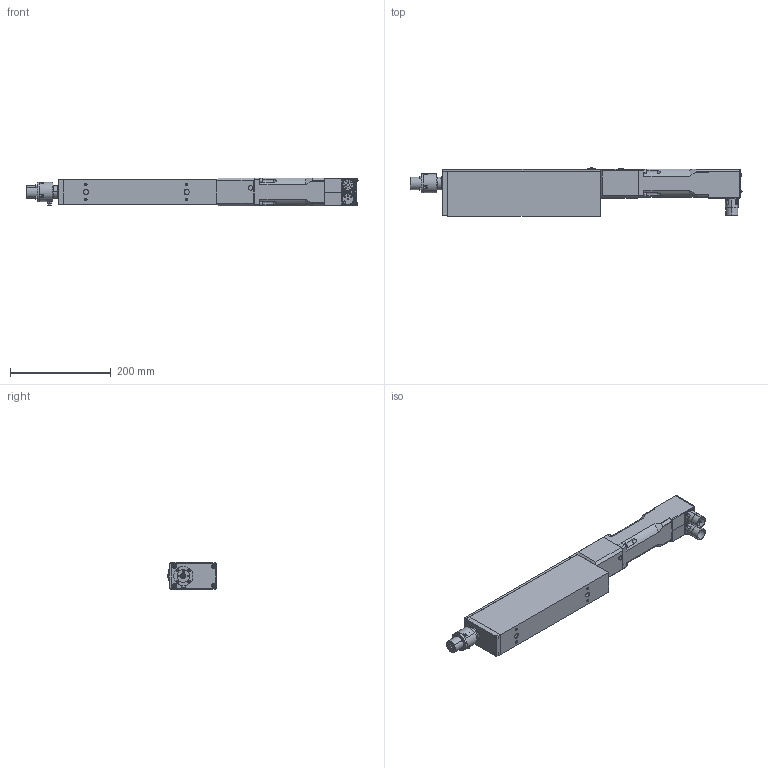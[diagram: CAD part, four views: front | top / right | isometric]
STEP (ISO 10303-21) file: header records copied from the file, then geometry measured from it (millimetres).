
FILE_DESCRIPTION (( 'STEP AP203' ), '1' );
FILE_NAME ('KM PR5ID015-020-030N.STEP', '2021-02-23T14:34:20', ( '' ), ( '' ), 'SwSTEP 2.0', 'SolidWorks 2016', '' );
FILE_SCHEMA (( 'CONFIG_CONTROL_DESIGN' ));
Length unit declared in the file: millimetre
Products named in the file (2): KM PR5ID015-020-030N
Bounding box: 658.09 x 95.58 x 55 mm (x, y, z)
Volume: 1859273.1 mm3; surface area: 341966.5 mm2
Topology: 34 solids, 46 shells, 2335 faces, 5423 edges, 3213 vertices
Faces by surface type: plane 1098, cylinder 640, cone 444, bspline 82, torus 58, sphere 13
Entity records: 68689 total; most frequent: CARTESIAN_POINT 16500, DIRECTION 11100, ORIENTED_EDGE 10466, EDGE_CURVE 5233, AXIS2_PLACEMENT_3D 4251, VERTEX_POINT 3200, EDGE_LOOP 2665, VECTOR 2598
